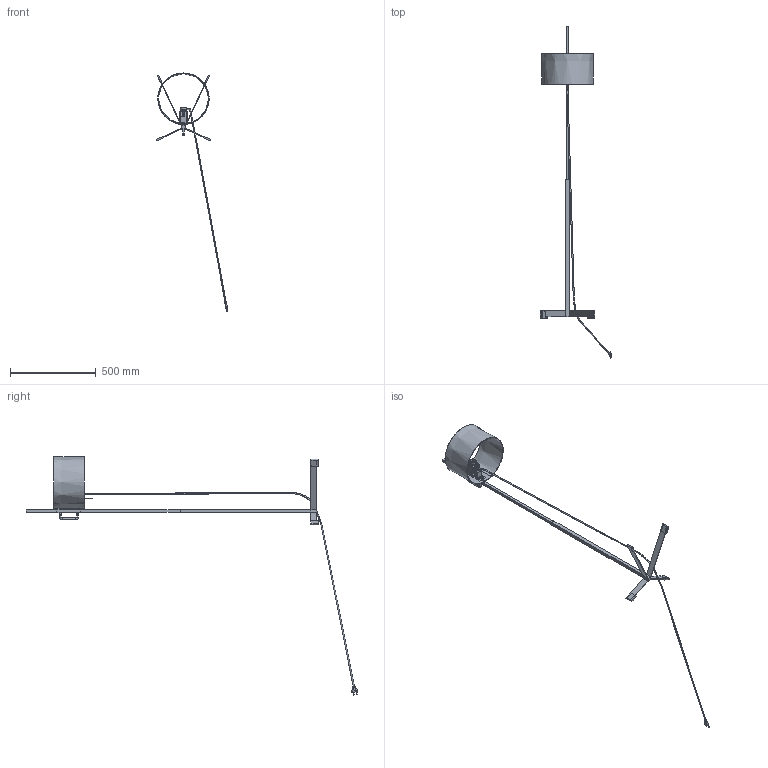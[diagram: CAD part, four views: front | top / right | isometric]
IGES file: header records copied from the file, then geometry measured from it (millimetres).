
Start section: SolidWorks IGES file using analytic representation for surfaces
Global section: file name: C:\Users\GabrielG\Desktop\Accesos directos\TMC.IGS; native system: SolidWorks 2015; preprocessor: SolidWorks 2015; author: GabrielG; date: 160721.135959; units: millimetre
Bounding box: 418.86 x 1939.46 x 1391.72 mm (x, y, z)
Surface area: 678874.7 mm2 (no closed solid volume)
Topology: 0 solids, 0 shells, 251 faces, 5220 edges, 5220 vertices
Faces by surface type: bspline 176, revolution 75
